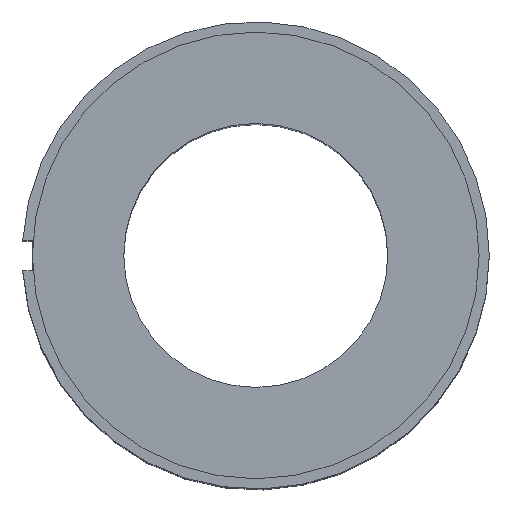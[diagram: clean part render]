
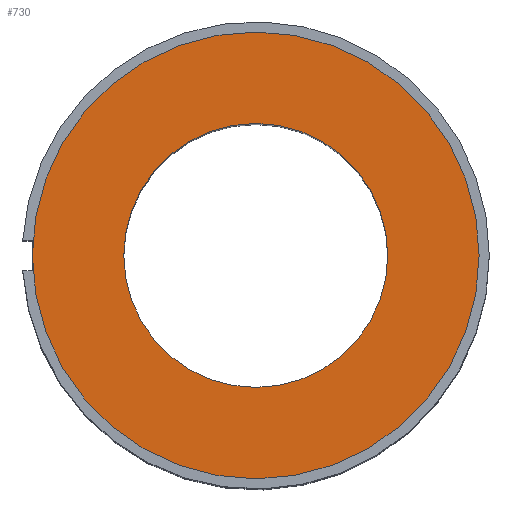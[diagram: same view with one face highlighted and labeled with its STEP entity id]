
A CAD part, top view. The second image highlights one B-rep face of the part: STEP entity #730.
In plain terms, the highlighted planar face has unit normal (0, 0, 1).
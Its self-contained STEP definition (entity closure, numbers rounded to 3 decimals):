
#91=CARTESIAN_POINT('',(-6.5,0.,32.0));
#92=VERTEX_POINT('',#91);
#101=CARTESIAN_POINT('',(6.5,0.,32.0));
#102=VERTEX_POINT('',#101);
#103=CARTESIAN_POINT('',(0.0,0.0,32.0));
#104=DIRECTION('',(0.0,0.0,-1.0));
#105=DIRECTION('',(-1.0,0.0,0.0));
#106=AXIS2_PLACEMENT_3D('',#103,#104,#105);
#107=CIRCLE('',#106,6.5);
#108=EDGE_CURVE('',#102,#92,#107,.T.);
#614=CARTESIAN_POINT('',(-11.0,0.,32.0));
#615=VERTEX_POINT('',#614);
#706=CARTESIAN_POINT('',(0.0,0.0,32.0));
#707=DIRECTION('',(0.0,0.0,-1.0));
#708=DIRECTION('',(-1.0,0.0,0.0));
#709=AXIS2_PLACEMENT_3D('',#706,#707,#708);
#710=PLANE('',#709);
#711=CARTESIAN_POINT('',(0.0,0.0,32.0));
#712=DIRECTION('',(0.0,0.0,-1.0));
#713=DIRECTION('',(1.0,0.0,0.0));
#714=AXIS2_PLACEMENT_3D('',#711,#712,#713);
#715=CIRCLE('',#714,11.0);
#716=EDGE_CURVE('',#615,#615,#715,.T.);
#717=ORIENTED_EDGE('',*,*,#716,.F.);
#718=EDGE_LOOP('',(#717));
#719=FACE_OUTER_BOUND('',#718,.T.);
#720=ORIENTED_EDGE('',*,*,#108,.T.);
#721=CARTESIAN_POINT('',(0.0,0.0,32.0));
#722=DIRECTION('',(0.0,0.0,-1.0));
#723=DIRECTION('',(-1.0,0.0,0.0));
#724=AXIS2_PLACEMENT_3D('',#721,#722,#723);
#725=CIRCLE('',#724,6.5);
#726=EDGE_CURVE('',#92,#102,#725,.T.);
#727=ORIENTED_EDGE('',*,*,#726,.T.);
#728=EDGE_LOOP('',(#720,#727));
#729=FACE_BOUND('',#728,.T.);
#730=ADVANCED_FACE('',(#719,#729),#710,.F.);
